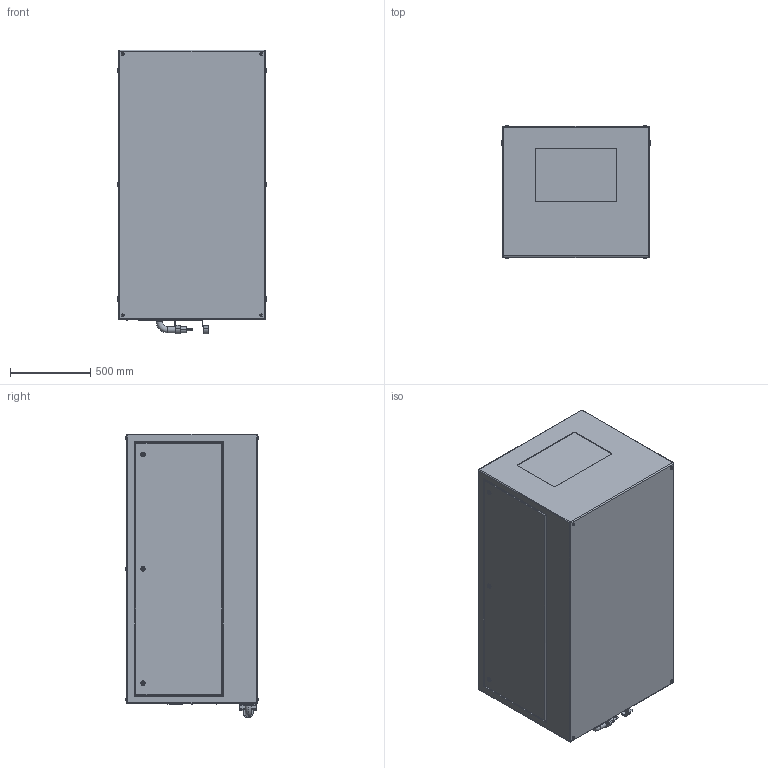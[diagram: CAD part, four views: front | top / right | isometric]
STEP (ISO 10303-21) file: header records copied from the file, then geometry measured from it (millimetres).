
FILE_DESCRIPTION (( 'STEP AP214' ), '1' );
FILE_NAME ('Oasis 59.525.L R02.STEP', '2022-09-12T23:49:52', ( '' ), ( '' ), 'SwSTEP 2.0', 'SolidWorks 2020', '' );
FILE_SCHEMA (( 'AUTOMOTIVE_DESIGN' ));
Length unit declared in the file: inch
Products named in the file (1): Oasis 59.525.L R02
Bounding box: 927.1 x 830.07 x 1765.3 mm (x, y, z)
Volume: 1244809152.3 mm3; surface area: 7847201.2 mm2
Topology: 3 solids, 9 shells, 510 faces, 1165 edges, 738 vertices
Faces by surface type: plane 279, cylinder 177, torus 46, bspline 8
Entity records: 19431 total; most frequent: CARTESIAN_POINT 2926, DIRECTION 2539, ORIENTED_EDGE 2314, EDGE_CURVE 1157, AXIS2_PLACEMENT_3D 911, VERTEX_POINT 738, LINE 717, VECTOR 717
